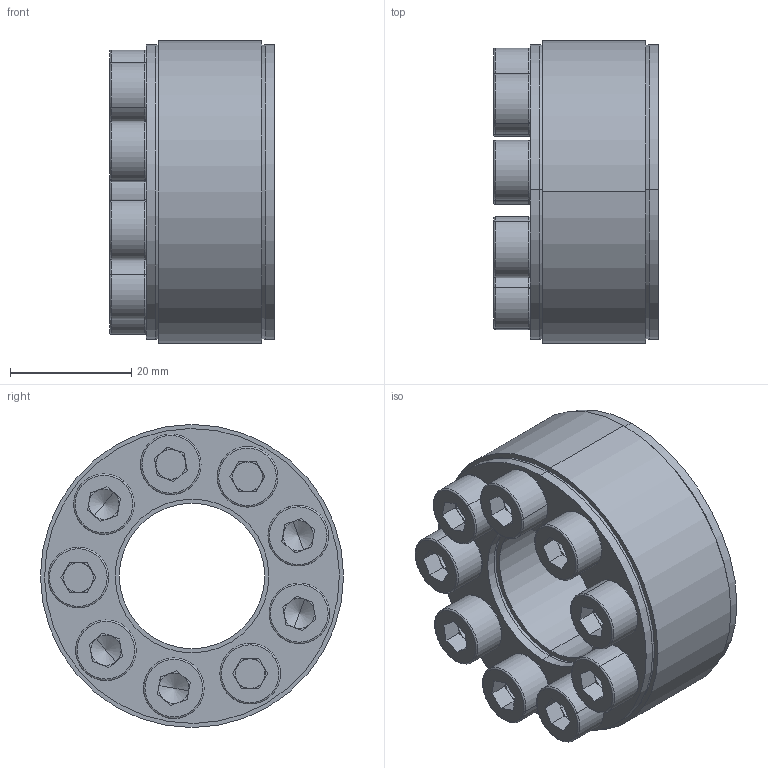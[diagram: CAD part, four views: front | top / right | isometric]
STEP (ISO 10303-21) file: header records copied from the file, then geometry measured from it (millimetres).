
FILE_DESCRIPTION (( 'STEP AP203' ), '1' );
FILE_NAME ('D1-24-50 Assy.STEP', '2017-10-11T03:15:57', ( 'MYCOM' ), ( '' ), 'SwSTEP 2.0', 'SolidWorks 2015', '' );
FILE_SCHEMA (( 'CONFIG_CONTROL_DESIGN' ));
Length unit declared in the file: millimetre
Products named in the file (1): D1-24-50 Assy
Bounding box: 27.14 x 50 x 50 mm (x, y, z)
Surface area: 17225.3 mm2 (no closed solid volume)
Topology: 0 solids, 22 shells, 273 faces, 646 edges, 391 vertices
Faces by surface type: plane 131, cylinder 66, cone 40, torus 36
Entity records: 7805 total; most frequent: DIRECTION 1498, CARTESIAN_POINT 1301, ORIENTED_EDGE 1173, EDGE_CURVE 636, AXIS2_PLACEMENT_3D 588, VERTEX_POINT 391, VECTOR 322, LINE 322
